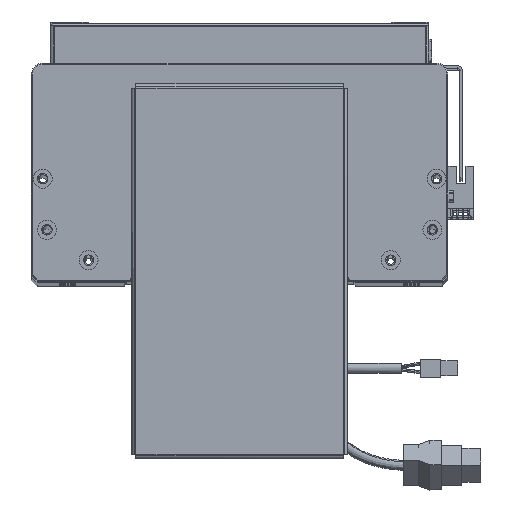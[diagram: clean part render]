
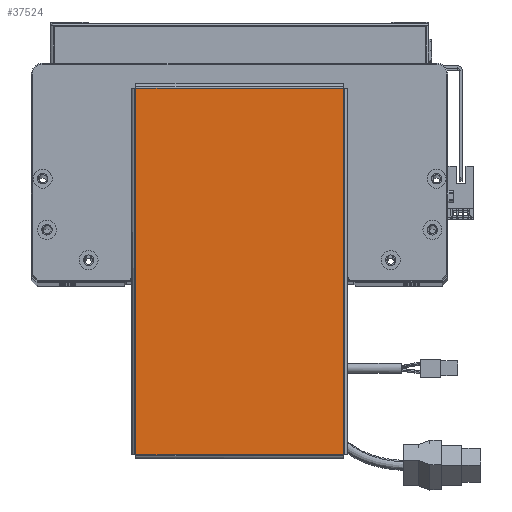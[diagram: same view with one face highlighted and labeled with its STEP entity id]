
A CAD part, top view. The second image highlights one B-rep face of the part: STEP entity #37524.
In plain terms, the highlighted planar face has unit normal (0, 0, 1).
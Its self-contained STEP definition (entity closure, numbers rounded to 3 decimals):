
#1212 = CARTESIAN_POINT ( 'NONE',  ( -96.793, -54.763, 0. ) ) ;
#3603 = LINE ( 'NONE', #56845, #16456 ) ;
#4077 = VERTEX_POINT ( 'NONE', #9944 ) ;
#4263 = FACE_OUTER_BOUND ( 'NONE', #30223, .T. ) ;
#5623 = DIRECTION ( 'NONE',  ( 0., -1., 0. ) ) ;
#8075 = DIRECTION ( 'NONE',  ( 1., 0., 0. ) ) ;
#9944 = CARTESIAN_POINT ( 'NONE',  ( 96.763, 54.763, 0. ) ) ;
#12662 = EDGE_CURVE ( 'NONE', #55533, #4077, #57192, .T. ) ;
#13448 = CARTESIAN_POINT ( 'NONE',  ( 0., 0., 0. ) ) ;
#14366 = EDGE_CURVE ( 'NONE', #41579, #55533, #31282, .T. ) ;
#15601 = DIRECTION ( 'NONE',  ( 0., 1., 0. ) ) ;
#16456 = VECTOR ( 'NONE', #5623, 1000. ) ;
#23882 = EDGE_CURVE ( 'NONE', #4077, #64882, #32648, .T. ) ;
#28376 = EDGE_CURVE ( 'NONE', #64882, #41579, #3603, .T. ) ;
#28874 = DIRECTION ( 'NONE',  ( -1., 0., 0. ) ) ;
#30223 = EDGE_LOOP ( 'NONE', ( #58816, #53088, #58571, #40707 ) ) ;
#31282 = LINE ( 'NONE', #1212, #64971 ) ;
#32648 = LINE ( 'NONE', #34386, #33394 ) ;
#33394 = VECTOR ( 'NONE', #28874, 1000. ) ;
#33937 = DIRECTION ( 'NONE',  ( 0., 0., 1. ) ) ;
#34386 = CARTESIAN_POINT ( 'NONE',  ( 96.793, 54.763, 0. ) ) ;
#37524 = ADVANCED_FACE ( 'NONE', ( #4263 ), #38845, .T. ) ;
#37653 = AXIS2_PLACEMENT_3D ( 'NONE', #13448, #33937, #8075 ) ;
#38845 = PLANE ( 'NONE',  #37653 ) ;
#40707 = ORIENTED_EDGE ( 'NONE', *, *, #28376, .T. ) ;
#41579 = VERTEX_POINT ( 'NONE', #42505 ) ;
#42483 = DIRECTION ( 'NONE',  ( 1., 0., 0. ) ) ;
#42505 = CARTESIAN_POINT ( 'NONE',  ( -96.763, -54.763, 0. ) ) ;
#45154 = CARTESIAN_POINT ( 'NONE',  ( 96.763, -54.763, 0. ) ) ;
#45937 = CARTESIAN_POINT ( 'NONE',  ( -96.763, 54.763, 0. ) ) ;
#53088 = ORIENTED_EDGE ( 'NONE', *, *, #12662, .T. ) ;
#55533 = VERTEX_POINT ( 'NONE', #45154 ) ;
#56845 = CARTESIAN_POINT ( 'NONE',  ( -96.763, 54.793, 0. ) ) ;
#57192 = LINE ( 'NONE', #66152, #65219 ) ;
#58571 = ORIENTED_EDGE ( 'NONE', *, *, #23882, .T. ) ;
#58816 = ORIENTED_EDGE ( 'NONE', *, *, #14366, .T. ) ;
#64882 = VERTEX_POINT ( 'NONE', #45937 ) ;
#64971 = VECTOR ( 'NONE', #42483, 1000. ) ;
#65219 = VECTOR ( 'NONE', #15601, 1000. ) ;
#66152 = CARTESIAN_POINT ( 'NONE',  ( 96.763, -54.793, 0. ) ) ;
